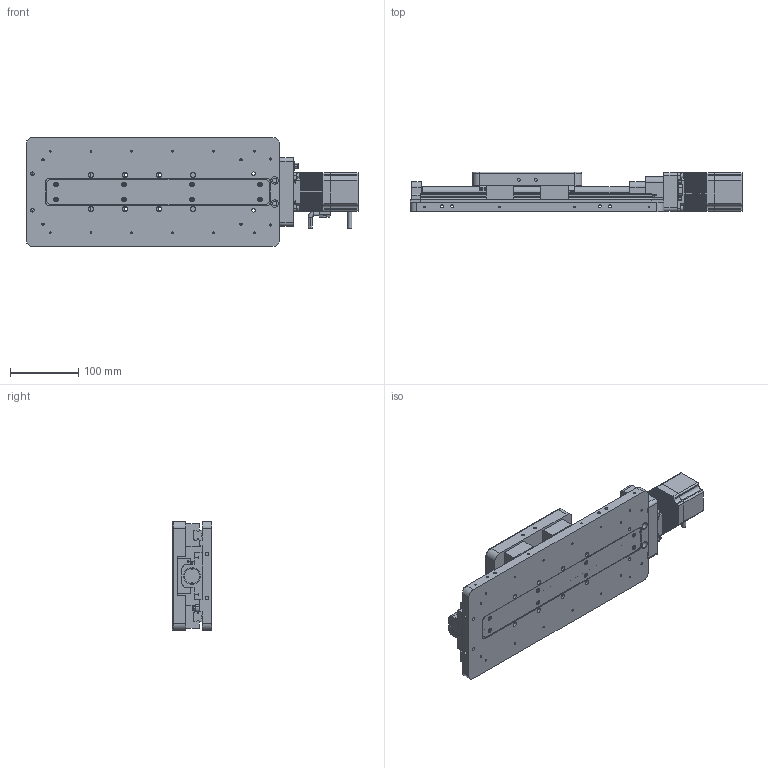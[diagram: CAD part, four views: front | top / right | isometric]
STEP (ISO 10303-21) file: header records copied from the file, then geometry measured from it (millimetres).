
FILE_DESCRIPTION (( 'STEP AP203' ), '1' );
FILE_NAME ('7STA09150Cµç¶¯Æ½ÒÆÌ¨.STEP', '2022-04-14T05:22:08', ( '' ), ( '' ), 'SwSTEP 2.0', 'SolidWorks 2018', '' );
FILE_SCHEMA (( 'CONFIG_CONTROL_DESIGN' ));
Length unit declared in the file: millimetre
Products named in the file (1): 7STA09150C萇雄す痄怢
Bounding box: 488 x 58 x 160 mm (x, y, z)
Surface area: 351863 mm2 (no closed solid volume)
Topology: 0 solids, 420 shells, 2623 faces, 9019 edges, 6663 vertices
Faces by surface type: cylinder 1309, plane 1126, torus 86, cone 60, sphere 28, bspline 14
Entity records: 97520 total; most frequent: CARTESIAN_POINT 20334, DIRECTION 17319, ORIENTED_EDGE 12475, EDGE_CURVE 8929, VERTEX_POINT 6631, AXIS2_PLACEMENT_3D 6046, LINE 5227, VECTOR 5227
